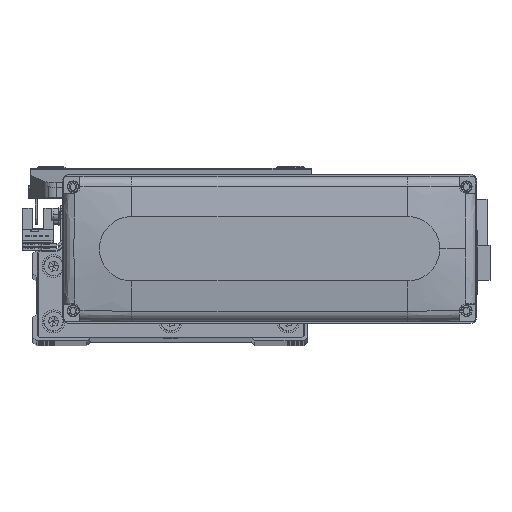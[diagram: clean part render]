
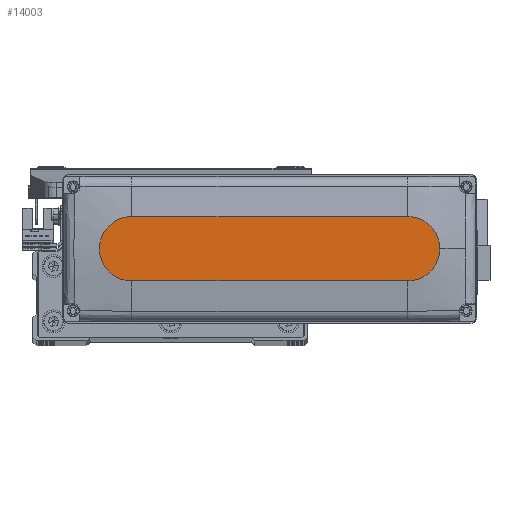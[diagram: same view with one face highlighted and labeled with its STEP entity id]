
A CAD part, top view. The second image highlights one B-rep face of the part: STEP entity #14003.
In plain terms, the highlighted planar face has unit normal (0, 0, 1).
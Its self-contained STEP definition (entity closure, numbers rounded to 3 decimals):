
#1108 = CARTESIAN_POINT ( 'NONE',  ( 60., 0., 28.5 ) ) ;
#1448 = ORIENTED_EDGE ( 'NONE', *, *, #2705, .T. ) ;
#1932 = ORIENTED_EDGE ( 'NONE', *, *, #27497, .T. ) ;
#2705 = EDGE_CURVE ( 'NONE', #40432, #18107, #26842, .T. ) ;
#3263 = VERTEX_POINT ( 'NONE', #4975 ) ;
#4226 = AXIS2_PLACEMENT_3D ( 'NONE', #43933, #13100, #30034 ) ;
#4975 = CARTESIAN_POINT ( 'NONE',  ( 60., 14., 28.5 ) ) ;
#6133 = DIRECTION ( 'NONE',  ( 1., 0., 0. ) ) ;
#7372 = CARTESIAN_POINT ( 'NONE',  ( -60., 14., 28.5 ) ) ;
#7629 = CARTESIAN_POINT ( 'NONE',  ( -60., 14., 28.5 ) ) ;
#8742 = VECTOR ( 'NONE', #41527, 1000. ) ;
#8944 = CARTESIAN_POINT ( 'NONE',  ( -60., 0., 28.5 ) ) ;
#10035 = PLANE ( 'NONE',  #4226 ) ;
#11829 = CARTESIAN_POINT ( 'NONE',  ( 74., 0., 28.5 ) ) ;
#13100 = DIRECTION ( 'NONE',  ( 0., 0., 1. ) ) ;
#13905 = CARTESIAN_POINT ( 'NONE',  ( -60., -14., 28.5 ) ) ;
#13917 = DIRECTION ( 'NONE',  ( 0., 0., 1. ) ) ;
#14003 = ADVANCED_FACE ( 'NONE', ( #51179 ), #10035, .T. ) ;
#17774 = DIRECTION ( 'NONE',  ( 1., 0., 0. ) ) ;
#18107 = VERTEX_POINT ( 'NONE', #28761 ) ;
#19475 = CIRCLE ( 'NONE', #50557, 14. ) ;
#20247 = CARTESIAN_POINT ( 'NONE',  ( 60., -14., 28.5 ) ) ;
#22273 = ORIENTED_EDGE ( 'NONE', *, *, #36507, .T. ) ;
#26368 = VERTEX_POINT ( 'NONE', #11829 ) ;
#26842 = CIRCLE ( 'NONE', #52606, 14. ) ;
#27226 = CARTESIAN_POINT ( 'NONE',  ( 60., 0., 28.5 ) ) ;
#27497 = EDGE_CURVE ( 'NONE', #18107, #40882, #30276, .T. ) ;
#27500 = EDGE_CURVE ( 'NONE', #40882, #26368, #19475, .T. ) ;
#28761 = CARTESIAN_POINT ( 'NONE',  ( -60., -14., 28.5 ) ) ;
#30034 = DIRECTION ( 'NONE',  ( 1., 0., 0. ) ) ;
#30276 = LINE ( 'NONE', #13905, #40799 ) ;
#35003 = DIRECTION ( 'NONE',  ( 0., 0., 1. ) ) ;
#36016 = EDGE_LOOP ( 'NONE', ( #22273, #1448, #1932, #40900, #36471 ) ) ;
#36471 = ORIENTED_EDGE ( 'NONE', *, *, #54585, .T. ) ;
#36507 = EDGE_CURVE ( 'NONE', #3263, #40432, #45684, .T. ) ;
#38127 = DIRECTION ( 'NONE',  ( 1., 0., 0. ) ) ;
#40432 = VERTEX_POINT ( 'NONE', #7372 ) ;
#40799 = VECTOR ( 'NONE', #47790, 1000. ) ;
#40882 = VERTEX_POINT ( 'NONE', #20247 ) ;
#40900 = ORIENTED_EDGE ( 'NONE', *, *, #27500, .T. ) ;
#41527 = DIRECTION ( 'NONE',  ( -1., 0., 0. ) ) ;
#43576 = AXIS2_PLACEMENT_3D ( 'NONE', #27226, #13917, #6133 ) ;
#43933 = CARTESIAN_POINT ( 'NONE',  ( 0., 0., 28.5 ) ) ;
#45684 = LINE ( 'NONE', #7629, #8742 ) ;
#46222 = CIRCLE ( 'NONE', #43576, 14. ) ;
#47790 = DIRECTION ( 'NONE',  ( 1., 0., 0. ) ) ;
#50557 = AXIS2_PLACEMENT_3D ( 'NONE', #1108, #35003, #17774 ) ;
#50648 = DIRECTION ( 'NONE',  ( 0., 0., 1. ) ) ;
#51179 = FACE_OUTER_BOUND ( 'NONE', #36016, .T. ) ;
#52606 = AXIS2_PLACEMENT_3D ( 'NONE', #8944, #50648, #38127 ) ;
#54585 = EDGE_CURVE ( 'NONE', #26368, #3263, #46222, .T. ) ;
